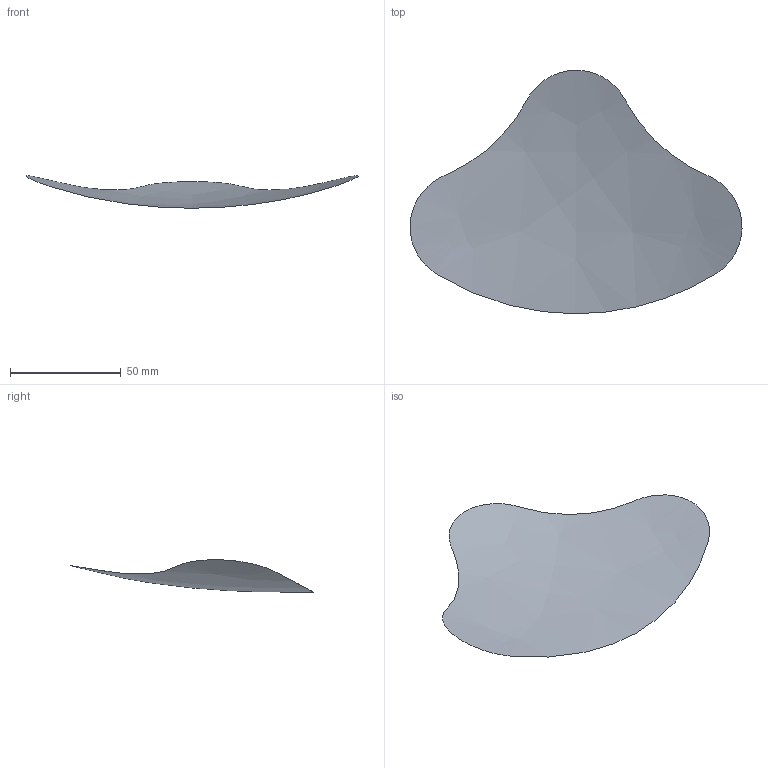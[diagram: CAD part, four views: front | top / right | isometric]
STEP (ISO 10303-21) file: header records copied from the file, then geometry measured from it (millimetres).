
FILE_DESCRIPTION(('CATIA V5 STEP Exchange','CAx-IF Rec.Pracs.--- Model Styling and Organization---1.4--- 2014-01-23'),'2;1');
FILE_NAME('C:\Users\CAS-\Desktop\Exercise Files\Catia\Injection_Mold.stp','2018-11-05T18:47:26+00:00',('none'),('none'),'CATIA Version 5-6 Release 2016','CATIA V5 STEP AP214 Edition 3','none');
FILE_SCHEMA(('AUTOMOTIVE_DESIGN { 1 0 10303 214 3 1 1 1 }'));
Length unit declared in the file: inch
Products named in the file (1): Injection_Mold
Bounding box: 149.98 x 109.98 x 14.66 mm (x, y, z)
Surface area: 10989.3 mm2 (no closed solid volume)
Topology: 0 solids, 1 shells, 1 faces, 6 edges, 9 vertices
Faces by surface type: bspline 1
Entity records: 186 total; most frequent: CARTESIAN_POINT 102, ORIENTED_EDGE 6, B_SPLINE_CURVE_WITH_KNOTS 6, EDGE_CURVE 6, VERTEX_POINT 6, STYLED_ITEM 5, PRESENTATION_STYLE_ASSIGNMENT 5, POINT_STYLE 3
